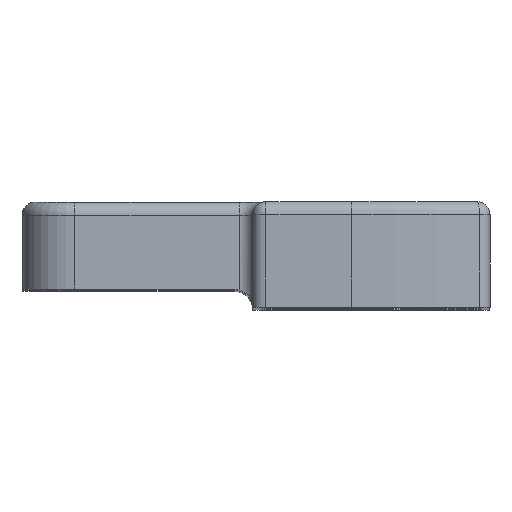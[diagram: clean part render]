
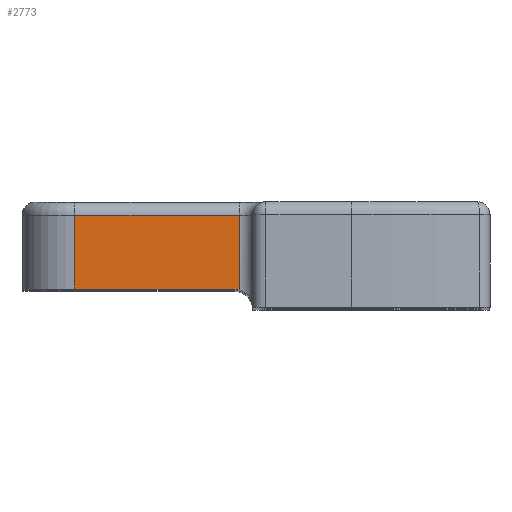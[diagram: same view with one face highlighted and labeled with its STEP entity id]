
A CAD part, top view. The second image highlights one B-rep face of the part: STEP entity #2773.
In plain terms, the highlighted planar face has unit normal (0, 0, 1).
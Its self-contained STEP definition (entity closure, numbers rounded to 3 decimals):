
#1129 = EDGE_LOOP ( 'NONE', ( #2833, #2834, #2835, #2836, #2837 ) ) ;
#2688 = EDGE_CURVE ( 'NONE', #3007, #3003, #7383, .T. ) ;
#2691 = EDGE_CURVE ( 'NONE', #3009, #2997, #7386, .T. ) ;
#2692 = EDGE_CURVE ( 'NONE', #3009, #3007, #7391, .T. ) ;
#2693 = EDGE_CURVE ( 'NONE', #3003, #3008, #7398, .T. ) ;
#2694 = EDGE_CURVE ( 'NONE', #3008, #2997, #6895, .T. ) ;
#2773 = ADVANCED_FACE ( 'NONE', ( #7877 ), #7878, .F. ) ;
#2833 = ORIENTED_EDGE ( 'NONE', *, *, #2691, .F. ) ;
#2834 = ORIENTED_EDGE ( 'NONE', *, *, #2692, .T. ) ;
#2835 = ORIENTED_EDGE ( 'NONE', *, *, #2688, .T. ) ;
#2836 = ORIENTED_EDGE ( 'NONE', *, *, #2693, .T. ) ;
#2837 = ORIENTED_EDGE ( 'NONE', *, *, #2694, .T. ) ;
#2997 = VERTEX_POINT ( 'NONE', #8159 ) ;
#3003 = VERTEX_POINT ( 'NONE', #8163 ) ;
#3007 = VERTEX_POINT ( 'NONE', #8167 ) ;
#3008 = VERTEX_POINT ( 'NONE', #8168 ) ;
#3009 = VERTEX_POINT ( 'NONE', #8169 ) ;
#6887 = VECTOR ( 'NONE', #7385, 1000. ) ;
#6888 = VECTOR ( 'NONE', #7397, 1000. ) ;
#6891 = VECTOR ( 'NONE', #7395, 1000. ) ;
#6894 = VECTOR ( 'NONE', #7400, 1000. ) ;
#6895 = CIRCLE ( 'NONE', #6897, 1.4 ) ;
#6897 = AXIS2_PLACEMENT_3D ( 'NONE', #7402, #7403, #7404 ) ;
#7383 = LINE ( 'NONE', #7384, #6887 ) ;
#7384 = CARTESIAN_POINT ( 'NONE',  ( -21., 8., 5.5 ) ) ;
#7385 = DIRECTION ( 'NONE',  ( 0., -1., 0. ) ) ;
#7386 = LINE ( 'NONE', #7387, #6891 ) ;
#7387 = CARTESIAN_POINT ( 'NONE',  ( -8.5, 8., 5.5 ) ) ;
#7391 = LINE ( 'NONE', #7396, #6888 ) ;
#7395 = DIRECTION ( 'NONE',  ( 0., -1., 0. ) ) ;
#7396 = CARTESIAN_POINT ( 'NONE',  ( -8.5, 7., 5.5 ) ) ;
#7397 = DIRECTION ( 'NONE',  ( -1., 0., 0. ) ) ;
#7398 = LINE ( 'NONE', #7399, #6894 ) ;
#7399 = CARTESIAN_POINT ( 'NONE',  ( -8.5, 1.4, 5.5 ) ) ;
#7400 = DIRECTION ( 'NONE',  ( 1., 0., 0. ) ) ;
#7402 = CARTESIAN_POINT ( 'NONE',  ( -8.9, 0., 5.5 ) ) ;
#7403 = DIRECTION ( 'NONE',  ( 0., 0., -1. ) ) ;
#7404 = DIRECTION ( 'NONE',  ( -1., 0., 0. ) ) ;
#7557 = AXIS2_PLACEMENT_3D ( 'NONE', #7870, #7881, #7882 ) ;
#7870 = CARTESIAN_POINT ( 'NONE',  ( -8.5, 8., 5.5 ) ) ;
#7877 = FACE_OUTER_BOUND ( 'NONE', #1129, .T. ) ;
#7878 = PLANE ( 'NONE',  #7557 ) ;
#7881 = DIRECTION ( 'NONE',  ( 0., 0., -1. ) ) ;
#7882 = DIRECTION ( 'NONE',  ( -1., 0., 0. ) ) ;
#8159 = CARTESIAN_POINT ( 'NONE',  ( -8.5, 1.342, 5.5 ) ) ;
#8163 = CARTESIAN_POINT ( 'NONE',  ( -21., 1.4, 5.5 ) ) ;
#8167 = CARTESIAN_POINT ( 'NONE',  ( -21., 7., 5.5 ) ) ;
#8168 = CARTESIAN_POINT ( 'NONE',  ( -8.9, 1.4, 5.5 ) ) ;
#8169 = CARTESIAN_POINT ( 'NONE',  ( -8.5, 7., 5.5 ) ) ;
